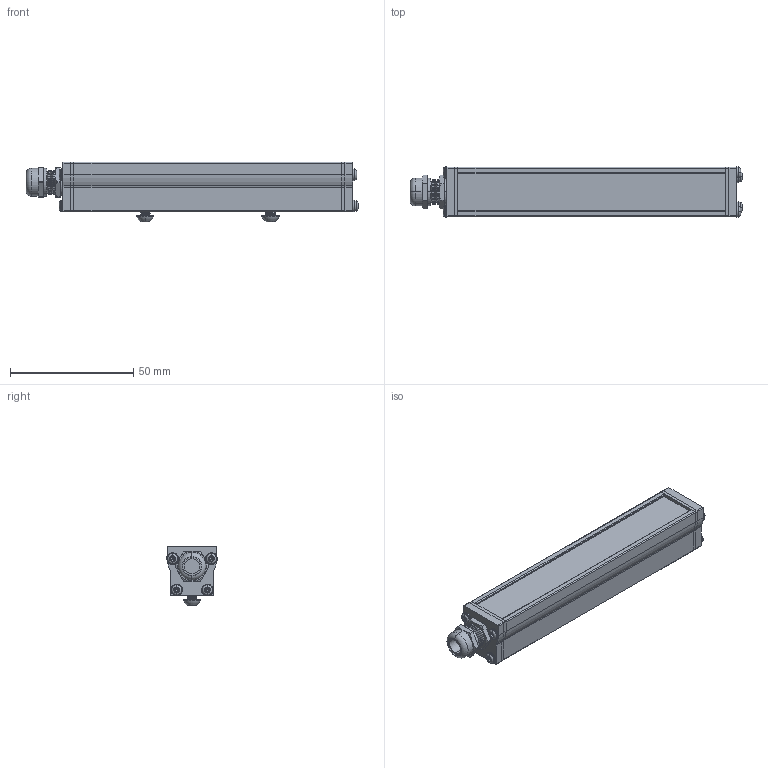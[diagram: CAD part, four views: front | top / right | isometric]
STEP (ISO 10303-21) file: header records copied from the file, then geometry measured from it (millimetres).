
FILE_DESCRIPTION (( 'STEP AP214' ), '1' );
FILE_NAME ('AL126 _SEALED__AL12604.stp', '2021-04-29T14:28:09', ( '' ), ( '' ), 'SwSTEP 2.0', 'SolidWorks 2018', '' );
FILE_SCHEMA (( 'AUTOMOTIVE_DESIGN' ));
Length unit declared in the file: inch
Products named in the file (17): 090876; BH-M4x6; 090935; 10mm Advanced illumination; 10mm Swish_Default<As Machined>; 10mm Label (116 126)_Default<As Machined>; 090875; 093474_093474; 091064_Model_Dome Fittings_Thread Type and Size(Dome)_M10 x 1.5_Hazardous Location-Explosive Proof(ATEX and EExe Versions)_No_; 090877-XX_090877-04; 093469_093469; 090889-XX_090889-04; 10mm Ai; HN-M4_90592A016; AL126 _SEALED__AL12604; 091052 (116 126); 90295A020
Assembly tree (34 placements, depth 3):
  AL126 _SEALED__AL12604
    090889-XX_090889-04
    090877-XX_090877-04
    090875
    090876
    093474_093474  x8
    093469_093469  x2
    091064_Model_Dome Fittings_Thread Type and Size(Dome)_M10 x 1.5_Hazardous Location-Explosive Proof(ATEX and EExe Versions)_No_
    HN-M4_90592A016  x2
    BH-M4x6  x2
    091052 (116 126)
      10mm Label (116 126)_Default<As Machined>
      10mm Ai
      10mm Swish_Default<As Machined>
      10mm Advanced illumination
    090935  x2
    90295A020  x8
Bounding box: 134.45 x 20.52 x 24.1 mm (x, y, z)
Volume: 18760.1 mm3; surface area: 28368.8 mm2
Topology: 58 solids, 58 shells, 1993 faces, 5128 edges, 3202 vertices
Faces by surface type: cylinder 1010, plane 441, cone 362, bspline 120, torus 60
Entity records: 31761 total; most frequent: CARTESIAN_POINT 10686, ORIENTED_EDGE 4292, DIRECTION 3840, EDGE_CURVE 2146, AXIS2_PLACEMENT_3D 1378, VERTEX_POINT 1370, VECTOR 1084, LINE 1084
